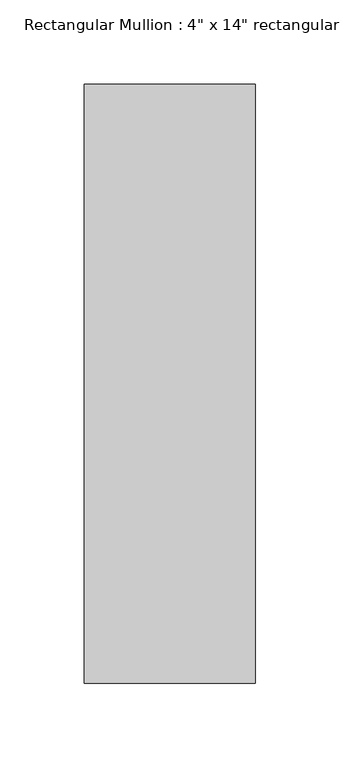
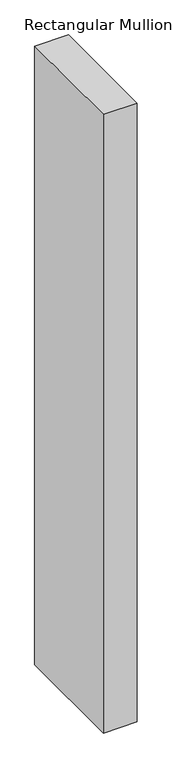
"""IFC4 building model written with IfcOpenShell, lengths in millimetres: member geometry."""

import ifcopenshell
import ifcopenshell.guid

model = None  # the IFC model being written
_history = None  # IfcOwnerHistory: only IFC2X3 demands one
_inside = {}  # id of a spatial element -> (the spatial element, [elements in it])
_under = {}  # id of a project, library or spatial element -> (it, [spatial elements below it])
_declared = {}  # id of a project -> (the project, [libraries it declares])
_typed = {}  # id of a type object -> (the type object, [elements of that type])
_made_of = {}  # id of a material, layer set ... -> (it, [elements and type objects made of it])


def new_model(schema):
    """Start an empty IFC model of exactly this schema.

    Asked for "IFC4X3", IfcOpenShell would pick the latest addendum, in which some entities
    have other attributes; the version numbers below select the first issue.
    IFC2X3 requires an IfcOwnerHistory on every rooted entity: one is made here for all.
    """
    global model, _history
    if schema == "IFC4X3":
        model = ifcopenshell.file(schema_version=(4, 3, 0, 0))
    else:
        model = ifcopenshell.file(schema=schema)
    _inside.clear()
    _under.clear()
    _declared.clear()
    _typed.clear()
    _made_of.clear()
    _history = None
    if model.schema == "IFC2X3":
        org = make("IfcOrganization", Name="unknown")
        user = make(
            "IfcPersonAndOrganization",
            ThePerson=make("IfcPerson", FamilyName="unknown"),
            TheOrganization=org,
        )
        app = make(
            "IfcApplication",
            ApplicationDeveloper=org,
            Version="unknown",
            ApplicationFullName="unknown",
            ApplicationIdentifier="unknown",
        )
        _history = make(
            "IfcOwnerHistory",
            OwningUser=user,
            OwningApplication=app,
            ChangeAction="ADDED",
            CreationDate=0,
        )
    return model


def make(cls, **values):
    """One entity of the class cls with the attributes given. An attribute that is None is left unset."""
    return model.create_entity(
        cls, **{name: value for name, value in values.items() if value is not None}
    )


def rooted(cls, **values):
    """An entity with a GlobalId (a new one), such as an element, a storey or a relation."""
    return make(cls, GlobalId=ifcopenshell.guid.new(), OwnerHistory=_history, **values)


def si_unit(unit_type, name, prefix=None):
    """IfcSIUnit, for example si_unit("LENGTHUNIT", "METRE", prefix="MILLI")."""
    return make("IfcSIUnit", UnitType=unit_type, Prefix=prefix, Name=name)


def assignment(units):
    """IfcUnitAssignment: the units of a project."""
    return None if units is None else make("IfcUnitAssignment", Units=units)


def point(xyz):
    """IfcCartesianPoint."""
    return None if xyz is None else make("IfcCartesianPoint", Coordinates=xyz)


def direction(xyz):
    """IfcDirection."""
    return None if xyz is None else make("IfcDirection", DirectionRatios=xyz)


def frame(location, z_axis=None, x_axis=None):
    """IfcAxis2Placement3D, a coordinate frame: its origin and axes. An axis left out is left unset."""
    return make(
        "IfcAxis2Placement3D",
        Location=point(location),
        Axis=direction(z_axis),
        RefDirection=direction(x_axis),
    )


def origin():
    """The frame at (0, 0, 0) with its axes left unset."""
    return frame((0.0, 0.0, 0.0))


def place(relative_to, where):
    """IfcLocalPlacement: puts the frame where relative to a parent placement (None: the world)."""
    return make(
        "IfcLocalPlacement", PlacementRelTo=relative_to, RelativePlacement=where
    )


def context(
    kind, dimensions, precision=None, world=None, true_north=None, identifier=None
):
    """IfcGeometricRepresentationContext, for example the 3D "Model" context."""
    return make(
        "IfcGeometricRepresentationContext",
        ContextIdentifier=identifier,
        ContextType=kind,
        CoordinateSpaceDimension=dimensions,
        Precision=precision,
        WorldCoordinateSystem=world,
        TrueNorth=true_north,
    )


def project(units=None, contexts=None):
    """IfcProject with its units and contexts."""
    return rooted(
        "IfcProject",
        Name="project",
        RepresentationContexts=contexts,
        UnitsInContext=assignment(units),
    )


def spatial(cls, under=None, at=None, **own):
    """A site, building, storey or space (cls), placed at a placement, below another one or the project."""
    s = rooted(cls, ObjectPlacement=at, **own)
    if under is not None:
        _under.setdefault(under.id(), (under, []))[1].append(s)
    return s


def polyline(points):
    """IfcPolyline through the points."""
    return make("IfcPolyline", Points=[point(p) for p in points])


def outline(outer, holes=None, kind="AREA"):
    """IfcArbitraryClosedProfileDef: a profile drawn as a closed curve; with holes, ...WithVoids."""
    if holes is None:
        return make("IfcArbitraryClosedProfileDef", ProfileType=kind, OuterCurve=outer)
    return make(
        "IfcArbitraryProfileDefWithVoids",
        ProfileType=kind,
        OuterCurve=outer,
        InnerCurves=holes,
    )


def extrude(swept, where, along, depth):
    """IfcExtrudedAreaSolid: the profile swept, set in the frame where, extruded along a direction by depth."""
    return make(
        "IfcExtrudedAreaSolid",
        SweptArea=swept,
        Position=where,
        ExtrudedDirection=direction(along),
        Depth=depth,
    )


def shape(context_of_items, identifier, shape_type, items):
    """IfcShapeRepresentation: the items that make up one representation, for example the "Body"."""
    return make(
        "IfcShapeRepresentation",
        ContextOfItems=context_of_items,
        RepresentationIdentifier=identifier,
        RepresentationType=shape_type,
        Items=items,
    )


def source(mapping_origin, context_of_items, identifier, shape_type, items):
    """IfcRepresentationMap: a shape defined once, which mapped items show again and again."""
    return make(
        "IfcRepresentationMap",
        MappingOrigin=mapping_origin,
        MappedRepresentation=shape(context_of_items, identifier, shape_type, items),
    )


def transform(
    local_origin,
    x_axis=None,
    y_axis=None,
    z_axis=None,
    scale=None,
    scale2=None,
    scale3=None,
    uniform=True,
):
    """IfcCartesianTransformationOperator3D, or its non-uniform kind. x_axis, y_axis, z_axis: its Axis1, 2, 3."""
    if uniform:
        return make(
            "IfcCartesianTransformationOperator3D",
            Axis1=direction(x_axis),
            Axis2=direction(y_axis),
            LocalOrigin=point(local_origin),
            Scale=scale,
            Axis3=direction(z_axis),
        )
    return make(
        "IfcCartesianTransformationOperator3DnonUniform",
        Axis1=direction(x_axis),
        Axis2=direction(y_axis),
        LocalOrigin=point(local_origin),
        Scale=scale,
        Axis3=direction(z_axis),
        Scale2=scale2,
        Scale3=scale3,
    )


def mapped(mapping_source, mapping_target):
    """IfcMappedItem: shows the shape of a source again, moved by a transform."""
    return make(
        "IfcMappedItem", MappingSource=mapping_source, MappingTarget=mapping_target
    )


def made_of(thing, what):
    """Note that an element or type object is made of a material, layer set ...; save() writes the relation."""
    if what is not None:
        _made_of.setdefault(what.id(), (what, []))[1].append(thing)
    return thing


def element(
    cls,
    number,
    at=None,
    inside=None,
    cuts=None,
    type_object=None,
    material=None,
    context=None,
    identifier="Body",
    shape_type=None,
    held_by="IfcProductDefinitionShape",
    body=None,
    shapes=None,
    **own,
):
    """One element of the class cls, such as IfcWall. Its Tag is "e" and its number.

    at: its placement. inside: the storey or other place that contains it. cuts: it is an
    opening in that element (IfcRelVoidsElement). A single representation is given by context,
    identifier, shape_type and body (its items); several are given by shapes. held_by: the class
    of the entity that holds the representations. save() writes the other relations.
    """
    e = rooted(cls, Tag="e%d" % number, ObjectPlacement=at, **own)
    if body is not None:
        shapes = [shape(context, identifier, shape_type, body)]
    if shapes is not None:
        e.Representation = make(held_by, Representations=shapes)
    if inside is not None:
        _inside.setdefault(inside.id(), (inside, []))[1].append(e)
    if cuts is not None:
        rooted(
            "IfcRelVoidsElement", RelatingBuildingElement=cuts, RelatedOpeningElement=e
        )
    if type_object is not None:
        _typed.setdefault(type_object.id(), (type_object, []))[1].append(e)
    return made_of(e, material)


def aggregate(whole, parts):
    """IfcRelAggregates: a whole, such as a stair, and the parts it consists of."""
    return rooted("IfcRelAggregates", RelatingObject=whole, RelatedObjects=parts)


def save(model, path):
    """Write the relations noted so far, then the file.

    IfcRelAggregates (storeys below a building ...), IfcRelContainedInSpatialStructure (elements
    in a storey), IfcRelDefinesByType, IfcRelAssociatesMaterial and IfcRelDeclares: one each for
    every whole, place, type object, material and project.
    """
    for whole, parts in _under.values():
        aggregate(whole, parts)
    for where, things in _inside.values():
        rooted(
            "IfcRelContainedInSpatialStructure",
            RelatedElements=things,
            RelatingStructure=where,
        )
    for kind, things in _typed.values():
        rooted("IfcRelDefinesByType", RelatedObjects=things, RelatingType=kind)
    for what, things in _made_of.values():
        rooted("IfcRelAssociatesMaterial", RelatedObjects=things, RelatingMaterial=what)
    for by, libraries in _declared.values():
        rooted("IfcRelDeclares", RelatingContext=by, RelatedDefinitions=libraries)
    model.write(path)


def member_8437ae98(model_context):
    return source(origin(), model_context, "Body", "SweptSolid", [
        extrude(outline(polyline([(50.8, 342.9), (50.8, -12.7), (-50.8, -12.7), (-50.8, 342.9), (50.8, 342.9)])), frame((0.0, 0.0, -1957.0776464), z_axis=(0.0, 0.0, 1.0), x_axis=(1.0, 0.0, 0.0)), (0.0, 0.0, 1.0), 1957.0776464),
    ])


if __name__ == "__main__":
    model = new_model("IFC4")
    model_context = context("Model", 3, world=origin())
    ifc_project = project(units=[si_unit("LENGTHUNIT", "METRE", prefix="MILLI")], contexts=[model_context])
    site = spatial("IfcSite", under=ifc_project)
    building = spatial("IfcBuilding", under=site)
    placement = place(None, origin())
    member_shape = member_8437ae98(model_context)
    element("IfcMember", 1, ObjectType="Rectangular Mullion : 4\" x 14\" rectangular", at=placement, inside=building, context=model_context, shape_type="MappedRepresentation", body=[
        mapped(member_shape, transform((0.0, 0.0, 0.0), x_axis=(1.0, 0.0, 0.0), y_axis=(0.0, 1.0, 0.0), z_axis=(0.0, 0.0, 1.0))),
    ])
    save(model, "model.ifc")
